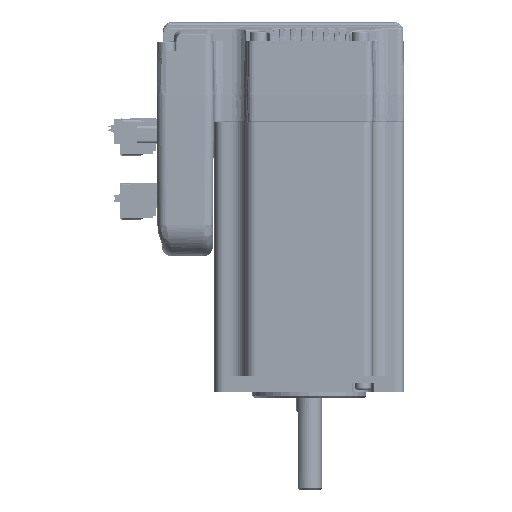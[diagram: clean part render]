
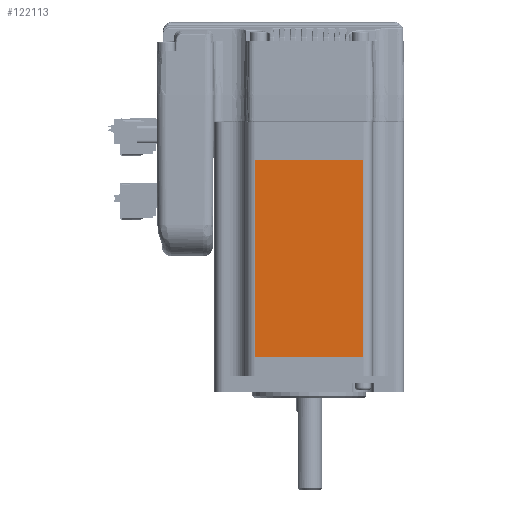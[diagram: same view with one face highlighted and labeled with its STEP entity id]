
A CAD part, left-side view. The second image highlights one B-rep face of the part: STEP entity #122113.
In plain terms, the highlighted planar face has unit normal (-1, 0, 0).
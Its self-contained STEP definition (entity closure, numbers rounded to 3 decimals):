
#5283 = DIRECTION ( 'NONE',  ( 0., 0., 1. ) ) ;
#5991 = FACE_OUTER_BOUND ( 'NONE', #70715, .T. ) ;
#12038 = VERTEX_POINT ( 'NONE', #143117 ) ;
#13770 = VECTOR ( 'NONE', #72174, 1000. ) ;
#15990 = VECTOR ( 'NONE', #127363, 1000. ) ;
#19704 = CARTESIAN_POINT ( 'NONE',  ( -30., 17., 62.42 ) ) ;
#30409 = CARTESIAN_POINT ( 'NONE',  ( -30., -17., 52. ) ) ;
#32118 = EDGE_CURVE ( 'NONE', #152039, #12038, #117523, .T. ) ;
#35321 = VERTEX_POINT ( 'NONE', #151448 ) ;
#51376 = ORIENTED_EDGE ( 'NONE', *, *, #32118, .T. ) ;
#51703 = VECTOR ( 'NONE', #150486, 1000. ) ;
#53813 = ORIENTED_EDGE ( 'NONE', *, *, #133507, .T. ) ;
#58185 = AXIS2_PLACEMENT_3D ( 'NONE', #146546, #158811, #85495 ) ;
#59907 = CARTESIAN_POINT ( 'NONE',  ( -30., -17., 0. ) ) ;
#60986 = PLANE ( 'NONE',  #58185 ) ;
#65534 = VECTOR ( 'NONE', #5283, 1000. ) ;
#70715 = EDGE_LOOP ( 'NONE', ( #51376, #75598, #122448, #53813 ) ) ;
#72174 = DIRECTION ( 'NONE',  ( 0., -1., 0. ) ) ;
#75598 = ORIENTED_EDGE ( 'NONE', *, *, #89738, .F. ) ;
#80122 = VERTEX_POINT ( 'NONE', #19704 ) ;
#85495 = DIRECTION ( 'NONE',  ( 0., -1., 0. ) ) ;
#89738 = EDGE_CURVE ( 'NONE', #80122, #12038, #116751, .T. ) ;
#89946 = CARTESIAN_POINT ( 'NONE',  ( -30., 17., 62.42 ) ) ;
#90922 = CARTESIAN_POINT ( 'NONE',  ( -30., 17., 52. ) ) ;
#116751 = LINE ( 'NONE', #89946, #51703 ) ;
#117523 = LINE ( 'NONE', #30409, #15990 ) ;
#122113 = ADVANCED_FACE ( 'NONE', ( #5991 ), #60986, .T. ) ;
#122448 = ORIENTED_EDGE ( 'NONE', *, *, #134631, .F. ) ;
#123003 = LINE ( 'NONE', #59907, #13770 ) ;
#127363 = DIRECTION ( 'NONE',  ( 0., 0., 1. ) ) ;
#133507 = EDGE_CURVE ( 'NONE', #35321, #152039, #123003, .T. ) ;
#134465 = LINE ( 'NONE', #90922, #65534 ) ;
#134631 = EDGE_CURVE ( 'NONE', #35321, #80122, #134465, .T. ) ;
#143117 = CARTESIAN_POINT ( 'NONE',  ( -30., -17., 62.42 ) ) ;
#144108 = CARTESIAN_POINT ( 'NONE',  ( -30., -17., 0. ) ) ;
#146546 = CARTESIAN_POINT ( 'NONE',  ( -30., -17., 52. ) ) ;
#150486 = DIRECTION ( 'NONE',  ( 0., -1., 0. ) ) ;
#151448 = CARTESIAN_POINT ( 'NONE',  ( -30., 17., 0. ) ) ;
#152039 = VERTEX_POINT ( 'NONE', #144108 ) ;
#158811 = DIRECTION ( 'NONE',  ( -1., 0., 0. ) ) ;
